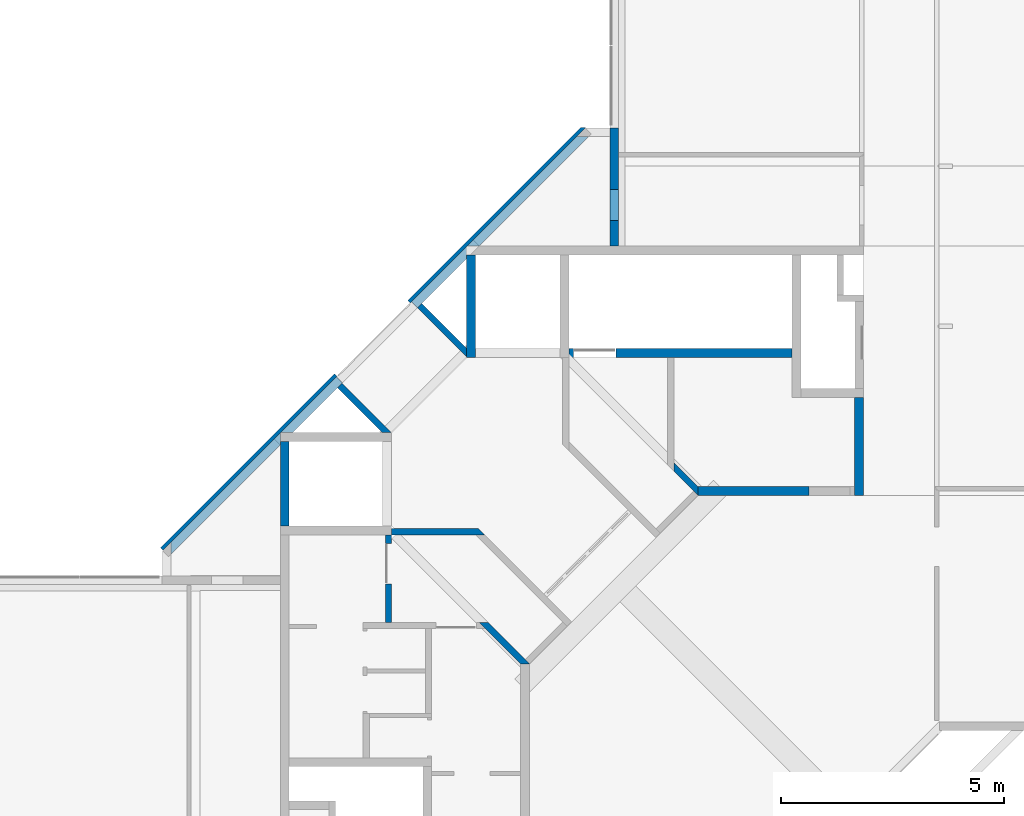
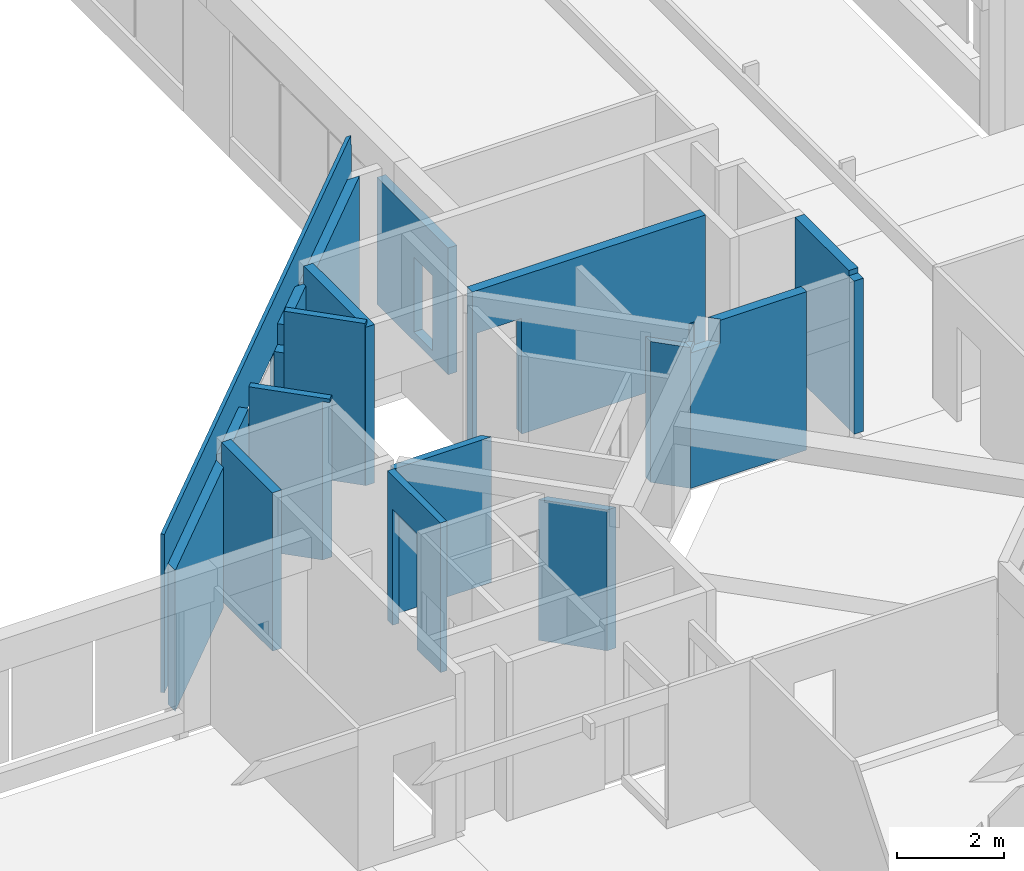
# One storey, part 22 of 26: 14 walls.
"""IFC4X3_ADD2 building model written with IfcOpenShell, lengths in millimetres."""

from ifc_helpers import new_model, si_unit, direction, frame, origin_with_axes, place, context, subcontext, project, spatial, polygons, source, transform, mapped, material, type_object, type_shapes, element, save


model = new_model("IFC4X3_ADD2")

# Units and contexts
model_context = context("Model", 3, precision=1e-05, world=origin_with_axes(), true_north=direction((0.0, 1.0)))
body_context = subcontext(model_context, "Body", "Model", "MODEL_VIEW")
ifc_project = project(units=[si_unit("LENGTHUNIT", "METRE", prefix="MILLI"), si_unit("AREAUNIT", "SQUARE_METRE"), si_unit("VOLUMEUNIT", "CUBIC_METRE"), si_unit("PLANEANGLEUNIT", "RADIAN"), si_unit("TIMEUNIT", "SECOND"), si_unit("MASSUNIT", "GRAM")], contexts=[model_context])

# Site, building, storey
site_placement = place(None, origin_with_axes())
site = spatial("IfcSite", under=ifc_project, at=site_placement, Name="Site", CompositionType="ELEMENT")
building_placement = place(site_placement, origin_with_axes())
building = spatial("IfcBuilding", under=site, at=building_placement, Name="IFC Building Story")
storey_placement = place(building_placement, frame((0.0, 0.0, 7200.0), z_axis=(0.0, 0.0, 1.0), x_axis=(1.0, 0.0, 0.0)))
storey = spatial("IfcBuildingStorey", under=building, at=storey_placement, Name="020", Elevation=7200.0)

# Walls
ifc_material = material(Name="BB_Metselwerk_Betonsteen")
wall_type_1 = type_object("IfcWallType", Name="Basic Wall_BB_03.09.24#03_Wand uit metselwerk_ 190 mm5", PredefinedType="NOTDEFINED")
shared_shape_1 = source(origin_with_axes(), body_context, "Body", "Tessellation", [
    polygons([(-1.08286712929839e-12, -95.0000000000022, -1.08286712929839e-12), (3471.06131010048, -95.0000000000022, -1.08286712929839e-12), (3471.68589025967, -95.0000000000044, -1.08286712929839e-12), (3471.68589025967, -95.0000000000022, 119.999999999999), (3471.68589025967, -95.0000000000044, 3200.0), (3396.55443393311, -95.0000000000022, 3200.0), (-1.08286712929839e-12, -95.0000000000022, 3200.0), (189.999999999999, 94.999999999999, -1.08286712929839e-12), (3471.06131010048, 94.9999999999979, -1.08286712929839e-12), (3661.68589025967, 94.9999999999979, -1.08286712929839e-12), (189.999999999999, 94.999999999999, 3200.0), (3661.68589025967, 94.9999999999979, 3200.0), (3396.55443393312, 94.9999999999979, 3200.0), (3661.68589025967, 95.0, 119.999999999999)], [[[4, 5, 2]], [[2, 3, 4]], [[6, 7, 1]], [[6, 1, 2]], [[2, 5, 6]], [[2, 1, 8]], [[2, 8, 9]], [[9, 10, 3]], [[9, 3, 2]], [[6, 5, 12]], [[6, 12, 13]], [[13, 11, 7]], [[13, 7, 6]], [[1, 7, 11, 8]], [[14, 12, 5]], [[14, 5, 4]], [[4, 3, 10]], [[4, 10, 14]], [[9, 8, 11]], [[9, 11, 13]], [[14, 10, 9]], [[9, 13, 12]], [[9, 12, 14]]]),
    polygons([(13080.8455415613, 95.0, -1.08286712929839e-12), (9790.79767335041, 95.0, -1.08286712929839e-12), (9594.8091103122, 95.0000000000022, -1.08286712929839e-12), (9594.8091103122, 95.0, 120.000000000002), (9594.8091103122, 94.9999999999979, 3200.00000000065), (9780.10162734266, 95.0, 3200.00000000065), (13080.8455415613, 95.0, 3200.00000000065), (13270.8455415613, -95.0000000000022, -1.08286712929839e-12), (9790.79767335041, -95.0000000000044, -1.08286712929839e-12), (9784.8091103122, -95.0000000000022, -1.08286712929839e-12), (13270.8455415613, -95.0000000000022, 3200.00000000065), (9728.91073578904, -39.101625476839, 3200.00000000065), (9784.8091103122, -95.0000000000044, 3200.00000000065), (9784.8091103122, -95.0000000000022, 119.999999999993)], [[[4, 5, 6]], [[4, 6, 2]], [[2, 3, 4]], [[6, 7, 1]], [[6, 1, 2]], [[9, 10, 3]], [[9, 3, 2]], [[2, 1, 8]], [[2, 8, 9]], [[6, 5, 12]], [[12, 13, 11]], [[12, 11, 7]], [[12, 7, 6]], [[11, 8, 1, 7]], [[12, 5, 4]], [[12, 4, 14]], [[14, 13, 12]], [[4, 3, 10]], [[4, 10, 14]], [[9, 8, 11]], [[9, 11, 13]], [[14, 10, 9]], [[9, 13, 14]]]),
    polygons([(5271.30483938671, -95.0000000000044, 2850.0), (5443.4922932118, -95.0000000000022, 2850.0), (5443.49229321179, 95.0, 2850.0), (5271.30483938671, 95.0, 2850.0), (5271.30483938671, -95.0000000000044, 3319.99999999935), (5271.30483938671, 95.0, 3319.99999999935), (3866.32535178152, -95.0000000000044, 3319.99999999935), (3676.32535178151, 95.0, 3319.99999999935), (3810.42697725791, -39.1016254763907, 3319.99999999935), (5435.9922932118, 94.9999999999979, 119.999999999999), (5435.9922932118, -95.0, 119.999999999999), (3866.32535178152, -95.0000000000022, 119.999999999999), (3810.42697725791, -39.1016254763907, 119.999999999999), (3676.32535178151, 95.0, 119.999999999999), (5435.9922932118, 94.9999999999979, 200.000000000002), (5435.9922932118, -95.0, 200.000000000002), (5443.49229321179, -95.0000000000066, 200.000000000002), (5443.49229321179, 95.0, 200.000000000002), (5443.4922932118, 95.0, 450.000000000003), (5443.4922932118, -95.0000000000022, 450.000000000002), (3866.32535178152, -95.0000000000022, 3200.0), (3676.32535178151, 95.0, 3200.0)], [[[1, 2, 3, 4]], [[5, 1, 4, 6]], [[9, 7, 5]], [[9, 5, 6]], [[6, 8, 9]], [[13, 14, 10]], [[10, 11, 12]], [[10, 12, 13]], [[11, 10, 15, 16]], [[17, 16, 15, 18]], [[19, 3, 2]], [[19, 2, 20]], [[20, 17, 18]], [[20, 18, 19]], [[9, 8, 22]], [[9, 22, 21]], [[21, 7, 9]], [[13, 12, 21]], [[21, 22, 14]], [[21, 14, 13]], [[15, 10, 4]], [[19, 18, 15]], [[15, 4, 19]], [[4, 3, 19]], [[22, 8, 6]], [[4, 10, 14]], [[4, 14, 22]], [[22, 6, 4]], [[1, 5, 7]], [[1, 7, 21]], [[21, 12, 11]], [[21, 11, 1]], [[20, 2, 1]], [[1, 16, 20]], [[16, 17, 20]], [[1, 11, 16]]]),
    polygons([(9311.96639783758, 94.9999999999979, 3320.00000000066), (8067.75501644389, 94.9999999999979, 3320.00000000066), (8067.75501644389, -95.0, 3320.00000000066), (9390.16964879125, -95.0, 3320.00000000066), (9446.06802331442, -39.1016254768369, 3320.00000000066), (8067.75501644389, -95.0, 2849.99999999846), (8067.75501644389, 94.9999999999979, 2849.99999999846), (7827.96115961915, -95.0, 2849.99999999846), (7827.96115961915, 94.9999999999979, 2849.99999999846), (7820.46115961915, -95.0000000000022, 119.999999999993), (7820.46115961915, 94.9999999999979, 119.999999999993), (9580.16964879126, 95.0000000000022, 119.999999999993), (9390.16964879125, -95.0, 119.999999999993), (9311.96639783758, 94.9999999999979, 3200.00000000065), (9446.06802331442, -39.1016254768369, 3200.00000000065), (7820.46115961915, -95.0000000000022, 200.000000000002), (7820.46115961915, 94.9999999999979, 200.000000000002), (7827.96115961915, 95.0, 200.000000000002), (7827.96115961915, -95.0000000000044, 200.000000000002), (7827.96115961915, -95.0000000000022, 450.000000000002), (7827.96115961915, 95.0, 450.000000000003), (9580.16964879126, 95.0000000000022, 3200.00000000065)], [[[1, 2, 3]], [[1, 3, 4]], [[1, 4, 5]], [[6, 3, 2, 7]], [[8, 6, 7, 9]], [[10, 11, 12, 13]], [[14, 1, 5, 15]], [[11, 10, 16, 17]], [[18, 17, 16, 19]], [[20, 8, 9]], [[20, 9, 21]], [[21, 18, 19]], [[21, 19, 20]], [[15, 5, 4]], [[15, 4, 13]], [[13, 12, 22]], [[13, 22, 15]], [[22, 14, 15]], [[18, 21, 14]], [[18, 14, 22]], [[18, 22, 12]], [[12, 11, 18]], [[11, 17, 18]], [[7, 2, 1]], [[7, 1, 14]], [[7, 14, 21]], [[21, 9, 7]], [[6, 8, 20]], [[19, 16, 10]], [[19, 10, 13]], [[13, 20, 19]], [[13, 4, 6]], [[13, 6, 20]], [[4, 3, 6]]]),
])
type_shapes(wall_type_1, [shared_shape_1])
wall_1_placement = place(storey_placement, frame((-22622.0277793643, 13248.2702696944, -200.0), z_axis=(0.0, 0.0, 1.0), x_axis=(0.7071067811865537, 0.7071067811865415, 0.0)))
element("IfcWall", 1, at=wall_1_placement, inside=storey, type_object=wall_type_1, material=ifc_material, Name="Basic Wall:BB_03.09.24#03_Wand uit metselwerk, 190 mm", ObjectType="Basic Wall:BB_03.09.24#03_Wand uit metselwerk, 190 mm", PredefinedType="SOLIDWALL", context=body_context, shape_type="MappedRepresentation", body=[
    mapped(shared_shape_1, transform((0.0, 0.0, 0.0))),
])
wall_type_2 = type_object("IfcWallType", Name="Basic Wall_BB_10.01_Akoestische voorzetwand atrium_ 75 mm5", PredefinedType="NOTDEFINED")
shared_shape_2 = source(origin_with_axes(), body_context, "Body", "Tessellation", [
    polygons([(-21.2132034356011, 37.499999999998, 3370.0), (28.7867965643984, -12.5000000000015, 3370.0), (49.9999999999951, -12.5000000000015, 3370.0), (-4.33146851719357e-12, 37.499999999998, 3370.0), (-21.2132034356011, 37.499999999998, 0.0), (5558.80882041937, 37.499999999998, 0.0), (5558.80882041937, -12.4999999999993, 0.0), (28.7867965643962, -12.4999999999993, 0.0), (13415.7038379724, 37.4999999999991, 0.0), (13415.7038379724, 37.4999999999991, 3370.0), (13415.7038379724, 37.4999999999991, 3600.0), (13415.7038379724, -12.5000000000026, 3600.0), (13415.7038379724, -12.4999999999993, 3370.0), (13415.7038379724, -12.5000000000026, 0.0), (7883.80638716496, -12.4999999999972, 0.0), (7883.80638716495, 37.5000000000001, 0.0), (7883.80638716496, -12.5000000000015, 2417.50000000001), (7883.80638716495, 37.5000000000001, 2417.50000000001), (5558.80882041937, -12.5000000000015, 2417.50000000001), (5558.80882041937, 37.499999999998, 2417.50000000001), (49.9999999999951, -12.5000000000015, 3600.0), (-4.33146851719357e-12, 37.499999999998, 3600.0)], [[[1, 2, 3, 4]], [[5, 6, 7, 8]], [[10, 11, 12]], [[10, 12, 13]], [[13, 14, 9]], [[13, 9, 10]], [[9, 14, 15, 16]], [[17, 18, 16, 15]], [[19, 20, 18, 17]], [[7, 6, 20, 19]], [[13, 12, 17]], [[17, 15, 14]], [[17, 14, 13]], [[12, 21, 19]], [[12, 19, 17]], [[3, 2, 8]], [[3, 8, 7]], [[3, 7, 19]], [[19, 21, 3]], [[4, 22, 11]], [[4, 11, 10]], [[20, 6, 5]], [[20, 5, 4]], [[4, 10, 18]], [[4, 18, 20]], [[10, 9, 16]], [[10, 16, 18]], [[5, 1, 4]], [[1, 5, 8, 2]], [[22, 4, 3, 21]], [[11, 22, 21, 12]]]),
    polygons([(28.7867965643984, -12.5000000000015, 3370.0), (41.2867965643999, -25.0, 3370.0), (62.4999999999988, -25.000000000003, 3370.0), (49.9999999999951, -12.5000000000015, 3370.0), (28.7867965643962, -12.4999999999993, 0.0), (5558.80882041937, -12.5000000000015, 0.0), (5558.80882041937, -25.000000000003, 0.0), (41.2867965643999, -25.0, 0.0), (13415.7038379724, -25.000000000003, 0.0), (13415.7038379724, -12.5000000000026, 0.0), (13415.7038379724, -12.4999999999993, 3370.0), (13415.7038379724, -12.5000000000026, 3600.0), (13415.7038379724, -25.000000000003, 3600.0), (13415.7038379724, -25.0000000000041, 3370.0), (7883.80638716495, -25.000000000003, 0.0), (7883.80638716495, -12.5000000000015, 0.0), (7883.80638716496, -25.000000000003, 2417.50000000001), (7883.80638716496, -12.4999999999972, 2417.50000000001), (5558.80882041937, -25.000000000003, 2417.50000000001), (5558.80882041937, -12.5000000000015, 2417.50000000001), (49.9999999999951, -12.5000000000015, 3600.0), (62.4999999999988, -25.0000000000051, 3600.0)], [[[1, 2, 3, 4]], [[5, 6, 7, 8]], [[11, 12, 13]], [[11, 13, 14]], [[14, 9, 10]], [[14, 10, 11]], [[10, 9, 15, 16]], [[17, 18, 16, 15]], [[19, 20, 18, 17]], [[7, 6, 20, 19]], [[4, 21, 12]], [[4, 12, 11]], [[20, 6, 5]], [[20, 5, 4]], [[4, 11, 18]], [[4, 18, 20]], [[11, 10, 16]], [[11, 16, 18]], [[5, 1, 4]], [[14, 13, 17]], [[17, 15, 9]], [[17, 9, 14]], [[13, 22, 19]], [[13, 19, 17]], [[3, 2, 8]], [[3, 8, 7]], [[3, 7, 19]], [[19, 22, 3]], [[5, 8, 2, 1]], [[21, 4, 3, 22]], [[12, 21, 22, 13]]]),
    polygons([(41.2867965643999, -25.0, 3370.0), (53.7867965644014, -37.5000000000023, 3370.0), (75.0, -37.5000000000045, 3370.0), (62.4999999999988, -25.000000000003, 3370.0), (5558.80882041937, -25.000000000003, 0.0), (41.2867965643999, -25.0, 0.0), (62.4999999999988, -25.0000000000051, 3600.0), (13415.7038379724, -25.000000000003, 3600.0), (13415.7038379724, -25.0000000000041, 3370.0), (13415.7038379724, -25.000000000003, 0.0), (7883.80638716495, -25.000000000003, 0.0), (7883.80638716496, -25.000000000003, 2417.50000000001), (5558.80882041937, -25.000000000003, 2417.50000000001), (5558.80882041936, -37.5000000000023, 0.0), (53.7867965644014, -37.5000000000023, 0.0), (13415.7038379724, -37.5000000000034, 3600.0), (13415.7038379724, -37.5000000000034, 3370.0), (13415.7038379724, -37.5000000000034, 0.0), (7883.80638716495, -37.5000000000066, 0.0), (7883.80638716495, -37.5000000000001, 2417.50000000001), (5558.80882041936, -37.5000000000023, 2417.50000000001), (75.0, -37.5000000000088, 3600.0)], [[[1, 2, 3, 4]], [[4, 7, 8]], [[4, 8, 9]], [[13, 5, 6]], [[13, 6, 4]], [[4, 9, 12]], [[4, 12, 13]], [[9, 10, 11]], [[9, 11, 12]], [[6, 1, 4]], [[6, 5, 14, 15]], [[9, 8, 16]], [[9, 16, 17]], [[17, 18, 10]], [[17, 10, 9]], [[11, 10, 18, 19]], [[12, 11, 19, 20]], [[13, 12, 20, 21]], [[5, 13, 21, 14]], [[17, 16, 20]], [[20, 19, 18]], [[20, 18, 17]], [[16, 22, 21]], [[16, 21, 20]], [[3, 2, 15]], [[3, 15, 14]], [[3, 14, 21]], [[21, 22, 3]], [[1, 6, 15, 2]], [[7, 4, 3, 22]], [[8, 7, 22, 16]]]),
])
type_shapes(wall_type_2, [shared_shape_2])
wall_2_placement = place(storey_placement, frame((-13276.1648417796, 22781.5165042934, 230.0), z_axis=(0.0, 0.0, 1.0), x_axis=(-0.7071067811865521, -0.707106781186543, 0.0)))
element("IfcWall", 2, at=wall_2_placement, inside=storey, type_object=wall_type_2, Name="Basic Wall:BB_10.01_Akoestische voorzetwand atrium, 75 mm", ObjectType="Basic Wall:BB_10.01_Akoestische voorzetwand atrium, 75 mm", PredefinedType="PARTITIONING", context=body_context, shape_type="MappedRepresentation", body=[
    mapped(shared_shape_2, transform((0.0, 0.0, 0.0))),
])
wall_3_placement = place(storey_placement, frame((0.0, 0.0, -7200.0), z_axis=(0.0, 0.0, 1.0), x_axis=(1.0, 0.0, 0.0)))
element("IfcWall", 3, at=wall_3_placement, inside=storey, Name="Basic Wall:BB_XX_Wand uit beton, 200 mm", ObjectType="Basic Wall:BB_XX_Wand uit beton, 200 mm", PredefinedType="SOLIDWALL", context=body_context, shape_type="Tessellation", body=[
    polygons([(-15715.0, 17600.0, 10720.0), (-15715.0, 17600.0, 7120.0), (-15715.0, 19899.99999999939, 7120.0), (-15715.0, 19899.99999999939, 10720.0), (-15915.0, 17600.0, 7120.0), (-15915.0, 17600.0, 10720.0), (-15915.0, 17611.65132799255, 10720.0), (-15915.0, 17809.64122672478, 10720.0), (-15915.0, 19899.99999999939, 10720.0), (-15915.0, 19899.99999999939, 7120.0), (-15915.0, 17809.64122672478, 7120.0), (-15915.0, 17611.65132799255, 7120.0)], [[[1, 2, 3, 4]], [[8, 9, 10]], [[8, 10, 11]], [[11, 12, 7]], [[11, 7, 8]], [[12, 5, 6]], [[12, 6, 7]], [[11, 10, 3]], [[11, 3, 2]], [[2, 12, 11]], [[2, 5, 12]], [[7, 6, 1]], [[1, 8, 7]], [[1, 4, 9]], [[1, 9, 8]], [[2, 1, 6, 5]], [[4, 3, 10, 9]]]),
])
wall_4_placement = place(storey_placement, frame((0.0, 0.0, -7200.0), z_axis=(0.0, 0.0, 1.0), x_axis=(1.0, 0.0, 0.0)))
element("IfcWall", 4, at=wall_4_placement, inside=storey, Name="Basic Wall:BB_XX_Wand uit beton, 200 mm", ObjectType="Basic Wall:BB_XX_Wand uit beton, 200 mm", PredefinedType="SOLIDWALL", context=body_context, shape_type="Tessellation", body=[
    polygons([(-7199.999999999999, 16700.0, 7120.0), (-7200.0, 14500.00000000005, 7120.0), (-7200.0, 14500.00000000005, 10600.0), (-7200.000000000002, 14700.00000000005, 10600.0), (-7200.000000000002, 14700.00000000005, 10720.0), (-7199.999999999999, 16700.0, 10720.0), (-7000.0, 16700.0, 7120.0), (-7000.0, 16700.0, 10720.0), (-7000.0, 14700.00000000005, 10720.0), (-7000.0, 14700.00000000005, 10600.0), (-7000.0, 14500.00000000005, 10600.0), (-7000.0, 14500.00000000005, 7120.0)], [[[4, 5, 6]], [[4, 6, 1]], [[4, 1, 2]], [[2, 3, 4]], [[10, 11, 12]], [[12, 7, 8]], [[12, 8, 10]], [[8, 9, 10]], [[2, 1, 7, 12]], [[6, 5, 9, 8]], [[1, 6, 8, 7]], [[10, 4, 3, 11]], [[3, 2, 12, 11]], [[5, 4, 10, 9]]]),
])
wall_5_placement = place(storey_placement, frame((0.0, 0.0, -7200.0), z_axis=(0.0, 0.0, 1.0), x_axis=(1.0, 0.0, 0.0)))
element("IfcWall", 5, at=wall_5_placement, inside=storey, Name="Basic Wall:BB_XX_Wand uit beton, 200 mm", ObjectType="Basic Wall:BB_XX_Wand uit beton, 200 mm", PredefinedType="SOLIDWALL", context=body_context, shape_type="Tessellation", body=[
    polygons([(-8600.000000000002, 17800.0, 7120.0), (-12554.99999999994, 17800.0, 7120.0), (-12554.99999999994, 17800.0, 9750.000000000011), (-13514.99999999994, 17800.0, 9750.000000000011), (-13514.99999999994, 17800.0, 7120.0), (-13614.99999999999, 17800.0, 7120.0), (-13614.99999999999, 17800.0, 10720.0), (-8600.000000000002, 17800.0, 10720.0), (-8600.000000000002, 17600.0, 7120.0), (-8600.000000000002, 17600.0, 10720.0), (-13614.99999999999, 17600.0, 10720.0), (-13614.99999999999, 17600.0, 7120.0), (-13514.99999999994, 17600.0, 7120.0), (-13514.99999999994, 17600.0, 9750.000000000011), (-12554.99999999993, 17600.0, 9750.000000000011), (-12554.99999999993, 17600.0, 7120.0)], [[[4, 5, 6]], [[4, 6, 7]], [[7, 3, 4]], [[3, 7, 8]], [[8, 1, 2]], [[8, 2, 3]], [[15, 16, 9]], [[15, 9, 10]], [[10, 11, 15]], [[11, 14, 15]], [[11, 12, 13]], [[11, 13, 14]], [[1, 8, 10, 9]], [[7, 6, 12, 11]], [[2, 1, 9, 16]], [[8, 7, 11, 10]], [[3, 2, 16, 15]], [[4, 3, 15, 14]], [[5, 4, 14, 13]], [[6, 5, 13, 12]]]),
])
wall_6_placement = place(storey_placement, frame((0.0, 0.0, -7200.0), z_axis=(0.0, 0.0, 1.0), x_axis=(1.0, 0.0, 0.0)))
element("IfcWall", 6, at=wall_6_placement, inside=storey, Name="Basic Wall:BB_XX_Wand uit beton, 200 mm", ObjectType="Basic Wall:BB_XX_Wand uit beton, 200 mm", PredefinedType="SOLIDWALL", context=body_context, shape_type="Tessellation", body=[
    polygons([(-8220.0, 14700.0, 7119.999999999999), (-10716.00505063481, 14700.0, 7119.999999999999), (-10716.00505063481, 14700.0, 10320.0), (-10632.15728752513, 14700.0, 10320.0), (-10632.15728752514, 14700.0, 10720.0), (-10514.99999999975, 14700.0, 10720.0), (-10514.99999999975, 14700.0, 10200.0), (-10229.72006304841, 14700.0, 10200.0), (-10229.72006304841, 14700.0, 10720.0), (-8220.0, 14700.0, 10720.0), (-10716.0050506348, 14500.0, 7119.999999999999), (-8220.0, 14500.0, 7119.999999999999), (-8220.0, 14500.0, 10720.0), (-10078.60389693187, 14500.0, 10720.0), (-10078.60389693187, 14500.0, 10200.0), (-10714.99999999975, 14500.0, 10200.0), (-10714.99999999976, 14500.0, 10320.0), (-10714.99999999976, 14500.0, 10720.0), (-10716.0050506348, 14500.0, 10720.0), (-10054.16197999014, 14524.44191694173, 10200.0), (-10054.16197999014, 14524.44191694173, 10720.0), (-10573.57864376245, 14641.42135623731, 10720.0), (-10573.57864376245, 14641.42135623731, 10320.0), (-10716.0050506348, 14501.00505063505, 10320.0), (-10716.0050506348, 14501.00505063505, 10720.0), (-10716.00505063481, 14697.98989873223, 10320.0), (-10716.00505063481, 14697.98989873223, 7119.999999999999)], [[[4, 5, 6]], [[4, 6, 7]], [[8, 9, 10]], [[10, 1, 2]], [[10, 2, 8]], [[2, 7, 8]], [[2, 4, 7]], [[2, 3, 4]], [[17, 18, 19]], [[19, 16, 17]], [[16, 19, 11]], [[11, 15, 16]], [[11, 12, 13]], [[11, 13, 15]], [[13, 14, 15]], [[20, 21, 9, 8]], [[21, 20, 15, 14]], [[20, 8, 7]], [[20, 7, 16]], [[20, 16, 15]], [[23, 17, 16]], [[23, 16, 7]], [[7, 6, 22]], [[7, 22, 23]], [[17, 24, 25, 18]], [[26, 24, 17]], [[26, 17, 23]], [[26, 23, 4]], [[4, 3, 26]], [[4, 23, 22, 5]], [[27, 2, 1]], [[1, 12, 11]], [[1, 11, 27]], [[26, 3, 2]], [[26, 2, 27]], [[27, 11, 24]], [[27, 24, 26]], [[11, 19, 24]], [[19, 25, 24]], [[6, 5, 22]], [[1, 10, 13, 12]], [[21, 14, 13]], [[13, 10, 9]], [[13, 9, 21]], [[19, 18, 25]]]),
])
wall_7_placement = place(storey_placement, frame((0.0, 0.0, -7200.0), z_axis=(0.0, 0.0, 1.0), x_axis=(1.0, 0.0, 0.0)))
element("IfcWall", 7, at=wall_7_placement, inside=storey, Name="Basic Wall:BB_XX_Wand uit beton, 200 mm", ObjectType="Basic Wall:BB_XX_Wand uit beton, 200 mm", PredefinedType="SOLIDWALL", context=body_context, shape_type="Tessellation", body=[
    polygons([(-19900.0, 13815.0, 10720.0), (-19900.0, 13815.0, 7120.0), (-19900.0, 15714.99999999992, 7120.0), (-19900.0, 15714.99999999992, 10720.0), (-20100.0, 13815.0, 7120.0), (-20100.0, 13815.0, 10720.0), (-20100.0, 15714.99999999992, 10720.0), (-20100.0, 15714.99999999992, 7120.0)], [[[1, 2, 3, 4]], [[5, 6, 7, 8]], [[2, 5, 8, 3]], [[6, 1, 4, 7]], [[2, 1, 6, 5]], [[4, 3, 8, 7]]]),
])
wall_8_placement = place(storey_placement, frame((0.0, 0.0, -7200.0), z_axis=(0.0, 0.0, 1.0), x_axis=(1.0, 0.0, 0.0)))
element("IfcWall", 8, at=wall_8_placement, inside=storey, Name="Basic Wall:BB_XX_Wand uit metselwerk, 140 mm", ObjectType="Basic Wall:BB_XX_Wand uit metselwerk, 140 mm", PredefinedType="SOLIDWALL", context=body_context, shape_type="Tessellation", body=[
    polygons([(-11259.99999999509, 15241.984848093, 7119.999999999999), (-11259.99999999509, 15241.98484809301, 10320.0), (-10716.00505063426, 14697.98989873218, 10320.0), (-10716.00505063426, 14697.98989873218, 7119.999999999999), (-11259.99999999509, 15043.99494936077, 7119.999999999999), (-10716.00505063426, 14499.99999999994, 7119.999999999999), (-10716.00505063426, 14499.99999999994, 10320.0), (-11259.99999999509, 15043.99494936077, 10320.0), (-10716.00505063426, 14501.00505063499, 10320.0)], [[[1, 2, 3, 4]], [[5, 6, 7, 8]], [[6, 5, 1, 4]], [[9, 3, 2]], [[9, 2, 8]], [[8, 7, 9]], [[1, 5, 8, 2]], [[9, 7, 6]], [[6, 4, 3]], [[6, 3, 9]]]),
])
wall_9_placement = place(storey_placement, frame((0.0, 0.0, -7200.0), z_axis=(0.0, 0.0, 1.0), x_axis=(1.0, 0.0, 0.0)))
element("IfcWall", 9, at=wall_9_placement, inside=storey, Name="Basic Wall:BB_XX_Wand uit metselwerk, 140 mm", ObjectType="Basic Wall:BB_XX_Wand uit metselwerk, 140 mm", PredefinedType="SOLIDWALL", context=body_context, shape_type="Tessellation", body=[
    polygons([(-17740.0, 11650.00000000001, 10520.0), (-17740.0, 13615.0, 10520.0), (-17740.0, 13615.0, 7120.0), (-17740.0, 13424.99999999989, 7120.0), (-17740.0, 13424.99999999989, 9750.000000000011), (-17740.0, 12514.99999999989, 9750.000000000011), (-17740.0, 12514.99999999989, 7120.0), (-17740.0, 11650.00000000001, 7120.0), (-17600.0, 13615.0, 10520.0), (-17600.0, 11650.00000000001, 10520.0), (-17600.0, 11650.00000000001, 7120.0), (-17600.0, 12514.99999999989, 7120.0), (-17600.0, 12514.99999999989, 9750.000000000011), (-17600.0, 13424.99999999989, 9750.000000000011), (-17600.0, 13424.99999999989, 7120.0), (-17600.0, 13615.0, 7120.0)], [[[6, 7, 8]], [[6, 8, 1]], [[1, 2, 5]], [[1, 5, 6]], [[2, 3, 4]], [[2, 4, 5]], [[14, 15, 16]], [[14, 16, 9]], [[9, 10, 13]], [[9, 13, 14]], [[10, 11, 12]], [[10, 12, 13]], [[3, 16, 15, 4]], [[2, 1, 10, 9]], [[3, 2, 9, 16]], [[1, 8, 11, 10]], [[13, 6, 5, 14]], [[14, 5, 4, 15]], [[6, 13, 12, 7]], [[11, 8, 7, 12]]]),
])
wall_10_placement = place(storey_placement, frame((0.0, 0.0, -7200.0), z_axis=(0.0, 0.0, 1.0), x_axis=(1.0, 0.0, 0.0)))
element("IfcWall", 10, at=wall_10_placement, inside=storey, Name="Basic Wall:BB_XX_Wand uit metselwerk, 140 mm", ObjectType="Basic Wall:BB_XX_Wand uit metselwerk, 140 mm", PredefinedType="SOLIDWALL", context=body_context, shape_type="Tessellation", body=[
    polygons([(-15632.98989873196, 11649.99999999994, 10320.0), (-15632.98989873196, 11649.99999999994, 7119.999999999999), (-15492.98989873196, 11509.99999999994, 7119.999999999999), (-14697.98989873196, 10714.99999999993, 7119.999999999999), (-14697.98989873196, 10714.99999999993, 10320.0), (-15492.98989873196, 11509.99999999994, 10320.0), (-14499.99999999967, 10714.99999999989, 7119.999999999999), (-15434.99999999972, 11649.99999999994, 7119.999999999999), (-15434.99999999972, 11649.99999999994, 10320.0), (-14499.99999999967, 10714.99999999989, 10320.0)], [[[3, 4, 5]], [[3, 5, 6]], [[6, 1, 2]], [[6, 2, 3]], [[7, 8, 9, 10]], [[3, 2, 8]], [[8, 7, 4]], [[8, 4, 3]], [[6, 5, 10]], [[6, 10, 9]], [[9, 1, 6]], [[5, 4, 7, 10]], [[2, 1, 9, 8]]]),
])
wall_11_placement = place(storey_placement, frame((0.0, 0.0, -7200.0), z_axis=(0.0, 0.0, 1.0), x_axis=(1.0, 0.0, 0.0)))
element("IfcWall", 11, at=wall_11_placement, inside=storey, Name="Basic Wall:BB_XX_Wand uit beton, 190 mm", ObjectType="Basic Wall:BB_XX_Wand uit beton, 190 mm", PredefinedType="SOLIDWALL", context=body_context, shape_type="Tessellation", body=[
    polygons([(-12505.0040658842, 20100.0, 6999.999999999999), (-12505.0040658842, 22755.0000000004, 6999.999999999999), (-12505.0040658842, 22755.0000000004, 9880.0), (-12505.0040658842, 20100.0, 9880.0), (-12505.0040658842, 20675.63375030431, 7200.0), (-12505.0040658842, 20675.63375030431, 8900.0), (-12505.0040658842, 21375.63375030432, 8900.0), (-12505.0040658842, 21375.63375030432, 7200.0), (-12695.0040658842, 20100.0, 6999.999999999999), (-12695.0040658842, 20100.0, 9880.0), (-12695.0040658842, 22755.0000000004, 9880.0), (-12695.0040658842, 22755.0000000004, 6999.999999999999), (-12695.0040658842, 20675.63375030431, 7200.0), (-12695.0040658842, 21375.63375030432, 7200.0), (-12695.0040658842, 21375.63375030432, 8900.0), (-12695.0040658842, 20675.63375030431, 8900.0)], [[[8, 5, 1]], [[8, 1, 2]], [[2, 3, 7]], [[2, 7, 8]], [[3, 4, 7]], [[4, 6, 7]], [[4, 1, 5]], [[4, 5, 6]], [[16, 13, 9]], [[16, 9, 10]], [[10, 15, 16]], [[15, 10, 11]], [[11, 12, 14]], [[11, 14, 15]], [[12, 9, 14]], [[9, 13, 14]], [[2, 1, 9, 12]], [[3, 2, 12, 11]], [[4, 3, 11, 10]], [[1, 4, 10, 9]], [[6, 5, 13, 16]], [[7, 6, 16, 15]], [[8, 7, 15, 14]], [[5, 8, 14, 13]]]),
])
wall_12_placement = place(storey_placement, frame((0.0, 0.0, -7200.0), z_axis=(0.0, 0.0, 1.0), x_axis=(1.0, 0.0, 0.0)))
element("IfcWall", 12, at=wall_12_placement, inside=storey, Name="Basic Wall:BB_03.09.24#02_Wand uit metselwerk_EI60_43dB, 140 mm", ObjectType="Basic Wall:BB_03.09.24#02_Wand uit metselwerk_EI60_43dB, 140 mm", PredefinedType="SOLIDWALL", context=body_context, shape_type="Tessellation", body=[
    polygons([(-16920.46543486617, 18815.1066615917, 7119.999999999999), (-16920.46543486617, 18815.1066615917, 10800.0), (-15816.00505063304, 17710.64627735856, 10800.0), (-15816.00505063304, 17710.64627735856, 10720.0), (-15914.99999999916, 17809.64122672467, 10720.0), (-15914.99999999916, 17809.64122672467, 7119.999999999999), (-17019.46038423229, 18716.11171222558, 7119.999999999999), (-15914.99999999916, 17611.65132799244, 7119.999999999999), (-15914.99999999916, 17611.65132799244, 10720.0), (-15914.99999999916, 17611.65132799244, 10800.0), (-17019.46038423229, 18716.11171222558, 10800.0)], [[[5, 6, 1]], [[5, 1, 2]], [[2, 3, 5]], [[3, 4, 5]], [[9, 10, 11]], [[11, 7, 8]], [[11, 8, 9]], [[8, 7, 1, 6]], [[2, 1, 7, 11]], [[3, 2, 11, 10]], [[3, 10, 9, 4]], [[5, 9, 8, 6]], [[9, 5, 4]]]),
])
wall_13_placement = place(storey_placement, frame((0.0, 0.0, -7200.0), z_axis=(0.0, 0.0, 1.0), x_axis=(1.0, 0.0, 0.0)))
element("IfcWall", 13, at=wall_13_placement, inside=storey, Name="Basic Wall:BB_03.09.24#02_Wand uit metselwerk_EI60_43dB, 140 mm", ObjectType="Basic Wall:BB_03.09.24#02_Wand uit metselwerk_EI60_43dB, 140 mm", PredefinedType="SOLIDWALL", context=body_context, shape_type="Tessellation", body=[
    polygons([(-17611.65132797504, 15914.99999999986, 7119.999999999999), (-18716.44138119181, 17019.79005321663, 7119.999999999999), (-18716.44138119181, 17019.79005321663, 10800.0), (-17611.65132797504, 15914.99999999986, 10800.0), (-17611.65132797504, 15914.99999999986, 10720.0), (-18815.43633055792, 16920.79510385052, 10800.0), (-18815.43633055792, 16920.79510385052, 7119.999999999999), (-17809.64122670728, 15914.99999999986, 7119.999999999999), (-17809.64122670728, 15914.99999999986, 10720.0), (-17710.64627734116, 15816.00505063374, 10720.0), (-17710.64627734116, 15816.00505063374, 10800.0)], [[[5, 1, 2]], [[5, 2, 3]], [[3, 4, 5]], [[9, 10, 11]], [[9, 11, 6]], [[6, 7, 8]], [[6, 8, 9]], [[2, 1, 8, 7]], [[3, 2, 7, 6]], [[4, 3, 6, 11]], [[4, 11, 10, 5]], [[5, 9, 8, 1]], [[9, 5, 10]]]),
])
wall_14_placement = place(storey_placement, frame((0.0, 0.0, -7200.0), z_axis=(0.0, 0.0, 1.0), x_axis=(1.0, 0.0, 0.0)))
element("IfcWall", 14, at=wall_14_placement, inside=storey, Name="Basic Wall:BB_03.09.24#02_Wand uit metselwerk_EI60_43dB, 140 mm", ObjectType="Basic Wall:BB_03.09.24#02_Wand uit metselwerk_EI60_43dB, 140 mm", PredefinedType="SOLIDWALL", context=body_context, shape_type="Tessellation", body=[
    polygons([(-15510.04617358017, 13615.0, 10510.0), (-15708.0360723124, 13615.0, 10510.0), (-17600.0, 13615.0, 10510.0), (-17600.0, 13615.0, 7200.0), (-15510.04617358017, 13615.0, 7200.0), (-17600.0, 13755.0, 10510.0), (-15650.04617358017, 13755.0, 10510.0), (-15650.04617358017, 13755.0, 7200.0), (-17600.0, 13755.0, 7200.0)], [[[2, 3, 4]], [[2, 4, 5]], [[5, 1, 2]], [[6, 7, 8, 9]], [[2, 1, 7]], [[7, 6, 3]], [[7, 3, 2]], [[3, 6, 9, 4]], [[7, 1, 5, 8]], [[5, 4, 9, 8]]]),
])

save(model, "model.ifc")
